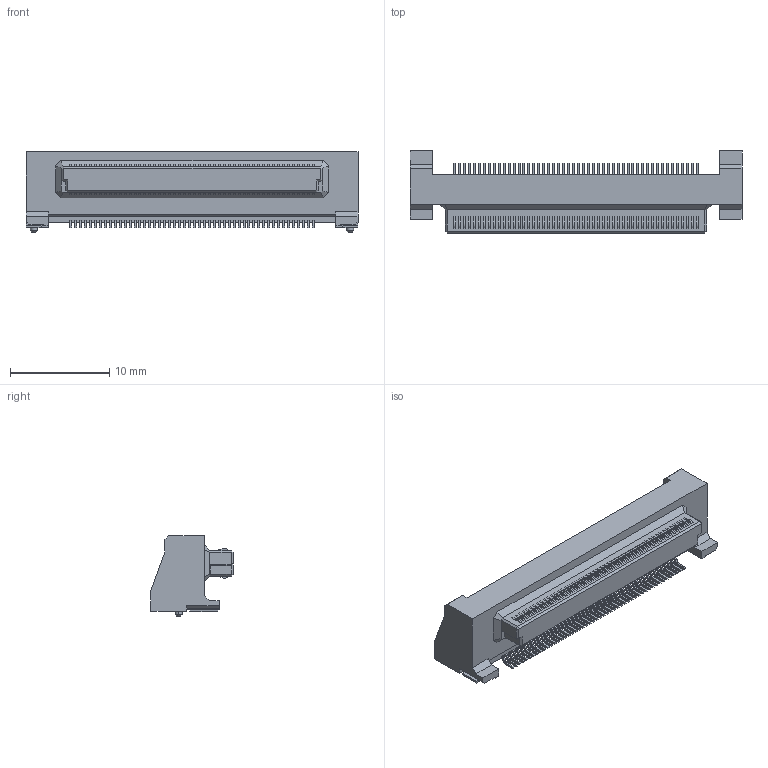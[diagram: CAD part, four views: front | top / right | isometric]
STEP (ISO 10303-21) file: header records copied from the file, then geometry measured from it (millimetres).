
FILE_DESCRIPTION(('Creo Elements/Direct Modeling STEP Export'),'2;1');
FILE_NAME('DY11-100L.stp','2017-11-30T15:52:40',(''),(''),'Creo Elements/Direct Modeling STEP processor for AP214 (Solid Model)','Creo Elements/Direct Modeling 19.0F 14-Feb-2017 (C) Parametric Technology GmbH','');
FILE_SCHEMA(('AUTOMOTIVE_DESIGN { 1 0 10303 214 1 1 1 1 }'));
Length unit declared in the file: millimetre
Products named in the file (2): DY11-100L
Assembly tree (1 placements, depth 2):
  DY11-100L
    DY11-100L
Bounding box: 33.5 x 8.3 x 8.15 mm (x, y, z)
Volume: 979.9 mm3; surface area: 1173.1 mm2
Topology: 1 solids, 1 shells, 1657 faces, 4528 edges, 2978 vertices
Faces by surface type: plane 1145, cylinder 508, cone 4
Entity records: 51213 total; most frequent: ORIENTED_EDGE 9056, CARTESIAN_POINT 8948, DIRECTION 8539, EDGE_CURVE 4528, VECTOR 3401, LINE 3401, VERTEX_POINT 2978, AXIS2_PLACEMENT_3D 2569
